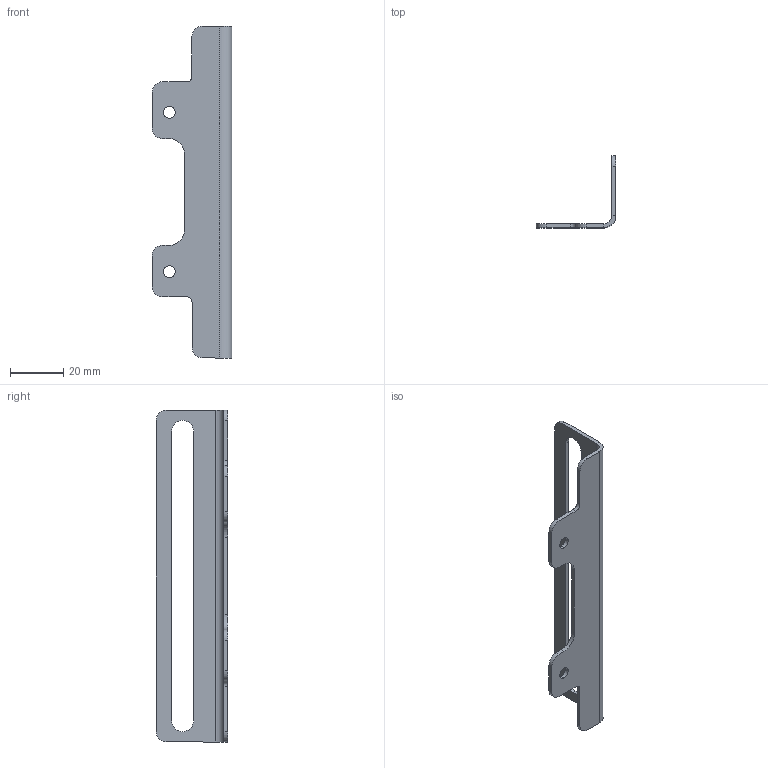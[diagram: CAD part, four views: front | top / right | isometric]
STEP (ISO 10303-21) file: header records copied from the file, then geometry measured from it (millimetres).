
FILE_DESCRIPTION (( 'STEP AP203' ), '1' );
FILE_NAME ('SH3012-Sensorhalter.STEP', '2016-01-26T13:24:22', ( '' ), ( '' ), 'SwSTEP 2.0', 'SolidWorks 2014', '' );
FILE_SCHEMA (( 'CONFIG_CONTROL_DESIGN' ));
Length unit declared in the file: millimetre
Products named in the file (1): SH3012-Sensorhalter
Bounding box: 30 x 27 x 125 mm (x, y, z)
Volume: 6900.9 mm3; surface area: 10150.8 mm2
Topology: 1 solids, 1 shells, 43 faces, 115 edges, 74 vertices
Faces by surface type: plane 22, cylinder 21
Entity records: 1436 total; most frequent: DIRECTION 245, CARTESIAN_POINT 233, ORIENTED_EDGE 230, EDGE_CURVE 115, AXIS2_PLACEMENT_3D 86, VERTEX_POINT 74, LINE 73, VECTOR 73
